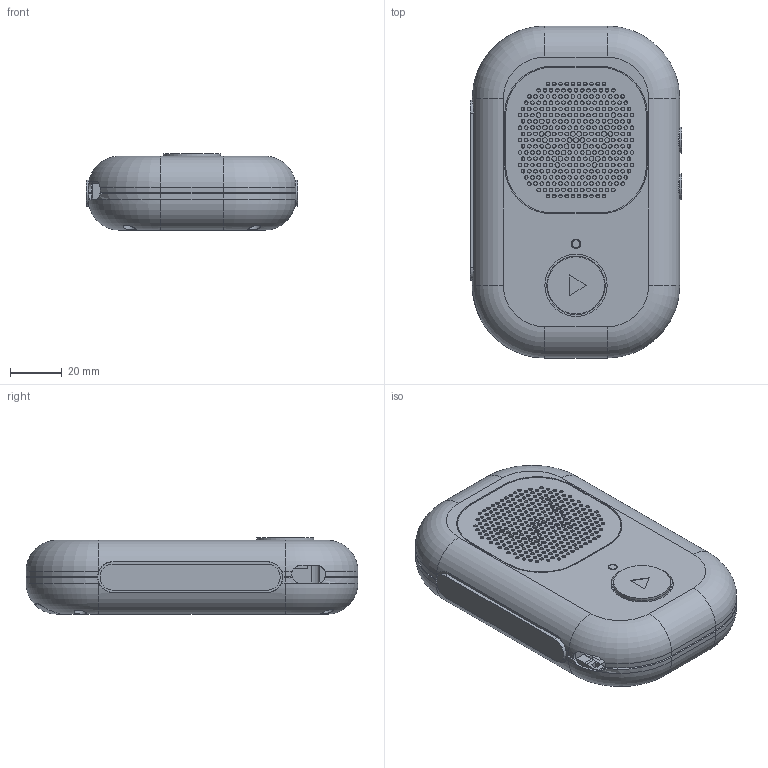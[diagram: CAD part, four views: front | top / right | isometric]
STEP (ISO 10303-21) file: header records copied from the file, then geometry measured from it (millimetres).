
FILE_DESCRIPTION(('Open CASCADE Model'),'2;1');
FILE_NAME('Open CASCADE Shape Model','2026-09-08T13:32:14',('Author'),( 'Open CASCADE'),'Open CASCADE STEP processor 7.7','Open CASCADE 7.7' ,'Unknown');
FILE_SCHEMA(('AUTOMOTIVE_DESIGN { 1 0 10303 214 1 1 1 1 }'));
Length unit declared in the file: millimetre
Products named in the file (60): 23_2_E1_CASE; 13_volume_up_diaphragm; 13_volume_up_diaphragm_part; 15_battery_isolation; 15_battery_isolation_part; 18_M2x20_rear_2; 18_M2x20_rear_2_part; 18_M2x20_rear_3; 18_M2x20_rear_3_part; 11_status_lightpipe; 11_status_lightpipe_part; 08_play_guide; 08_play_guide_part; 18_M2x20_rear_4; 18_M2x20_rear_4_part; 13_volume_down_diaphragm; 13_volume_down_diaphragm_part; 19_speaker_cradle; 19_speaker_cradle_part; 09_play_cap; 09_play_cap_part; 21_RF_window_bond; 21_RF_window_bond_part; 10_play_actuator; 10_play_actuator_part; 13_PTT_diaphragm; 13_PTT_diaphragm_part; 12_volume_down_cap; 12_volume_down_cap_part; 03_insulating_chassis; 03_insulating_chassis_part; 16_PCB_rail_R; 16_PCB_rail_R_part; 05_perforated_grille; 05_perforated_grille_part; 02_rear_stainless; 02_rear_stainless_part; 01_front_stainless; 01_front_stainless_part; 12_volume_up_cap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
Assembly tree (59 placements, depth 4):
  23_2_E1_CASE
    23_2_E1_CASE
      13_volume_up_diaphragm
        13_volume_up_diaphragm_part
      15_battery_isolation
        15_battery_isolation_part
      18_M2x20_rear_2
        18_M2x20_rear_2_part
      18_M2x20_rear_3
        18_M2x20_rear_3_part
      11_status_lightpipe
        11_status_lightpipe_part
      08_play_guide
        08_play_guide_part
      18_M2x20_rear_4
        18_M2x20_rear_4_part
      13_volume_down_diaphragm
        13_volume_down_diaphragm_part
      19_speaker_cradle
        19_speaker_cradle_part
      09_play_cap
        09_play_cap_part
      21_RF_window_bond
        21_RF_window_bond_part
      10_play_actuator
        10_play_actuator_part
      13_PTT_diaphragm
        13_PTT_diaphragm_part
      12_volume_down_cap
        12_volume_down_cap_part
      03_insulating_chassis
        03_insulating_chassis_part
      16_PCB_rail_R
        16_PCB_rail_R_part
      05_perforated_grille
        05_perforated_grille_part
      02_rear_stainless
        02_rear_stainless_part
      01_front_stainless
        01_front_stainless_part
      12_volume_up_cap
        12_volume_up_cap_part
      06_grille_support
        06_grille_support_part
      07_grille_bond
        07_grille_bond_part
      14_battery_tray
        14_battery_tray_part
      12_PTT_cap
        12_PTT_cap_part
      18_M2x20_rear_1
        18_M2x20_rear_1_part
      16_PCB_rail_L
        16_PCB_rail_L_part
      04_RF_rear_window
        04_RF_rear_window_part
      FRONT_SWITCH_GUIDE_AND_MOUNT
        FRONT_SWITCH_GUIDE_AND_MOUNT_part
      FRONT_SWITCH_REACTION_PLATE
        FRONT_SWITCH_REACTION_PLATE_part
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Bounding box: 81.4 x 128 x 29.4 mm (x, y, z)
Volume: 62411 mm3; surface area: 99931.2 mm2
Topology: 29 solids, 29 shells, 1011 faces, 2724 edges, 1803 vertices
Faces by surface type: cylinder 550, plane 427, torus 34
Full cylindrical faces by diameter (mm): 1.4 x284, 1.7 x6, 1.8 x31, 1.96 x4, 2 x4, 2.2 x6, 2.8 x8, 3 x1, 3.6 x1, 4 x1, 4.4 x2, 4.6 x4, 5 x4, 5.4 x2, 5.6 x4, 6.8 x8, 7.6 x1, 10 x4, 11.8 x2, 13 x4, 21 x1, 22 x1, 22.5 x1, 23.8 x1, 24 x1, 26.4 x1
Entity records: 85818 total; most frequent: CARTESIAN_POINT 30706, DIRECTION 9977, ORIENTED_EDGE 5448, PCURVE 5448, DEFINITIONAL_REPRESENTATION 5448, LINE 5204, VECTOR 5204, EDGE_CURVE 2724
